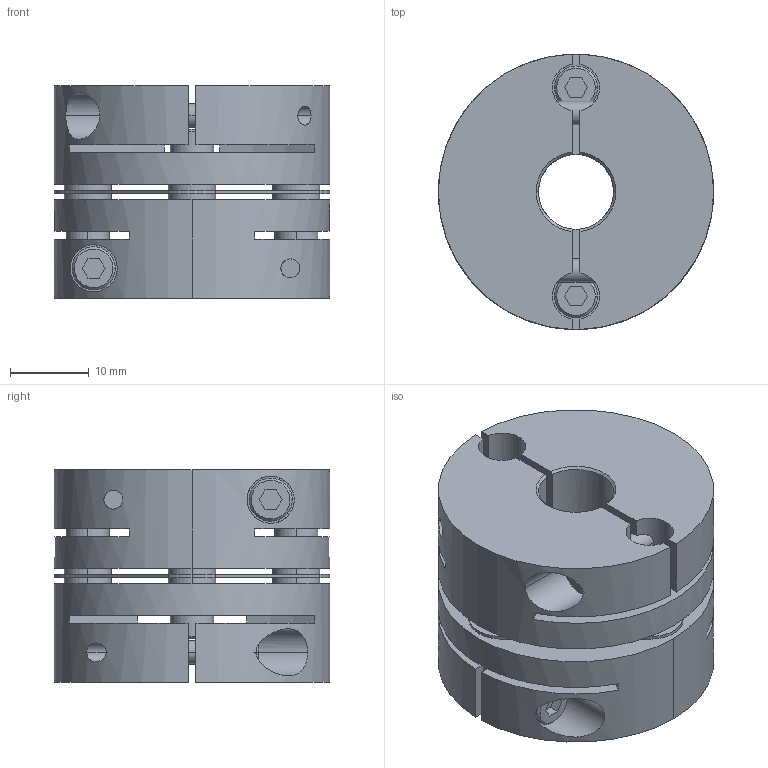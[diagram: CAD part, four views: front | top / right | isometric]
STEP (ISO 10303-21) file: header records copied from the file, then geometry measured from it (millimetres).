
FILE_DESCRIPTION((''),'2;1');
FILE_NAME('LAS-35C-9.525×16.stp','2015-10-14T15:31:32',(''),(''),'AutoCAD STEP 2000i','AutoCAD 2000i',', , ');
FILE_SCHEMA(('CONFIG_CONTROL_DESIGN'));
Length unit declared in the file: millimetre
Products named in the file (6): LAS-35C-8×14; 忣兜1; LA-3502-D14; LA-3502-D08-1; LA-3502-D08; LAS35-ITA
Assembly tree (5 placements, depth 2):
  LAS-35C-8×14
    忣兜1
    LA-3502-D14
    LA-3502-D08-1
    LA-3502-D08
    LAS35-ITA
Bounding box: 35 x 35 x 27 mm (x, y, z)
Volume: 18629.5 mm3; surface area: 11790.2 mm2
Topology: 1 solids, 1 shells, 236 faces, 624 edges, 408 vertices
Faces by surface type: plane 112, cylinder 96, cone 28
Entity records: 8251 total; most frequent: CARTESIAN_POINT 2068, DIRECTION 1288, ORIENTED_EDGE 1248, EDGE_CURVE 624, AXIS2_PLACEMENT_3D 470, VERTEX_POINT 408, VECTOR 348, LINE 348
